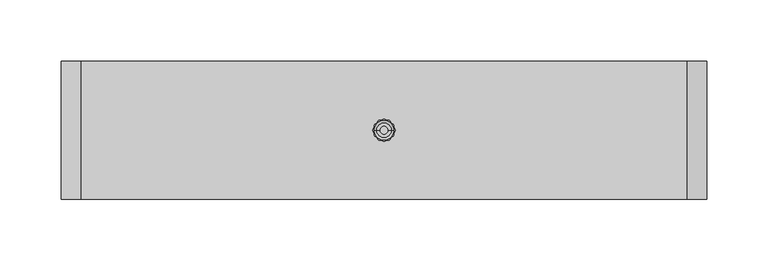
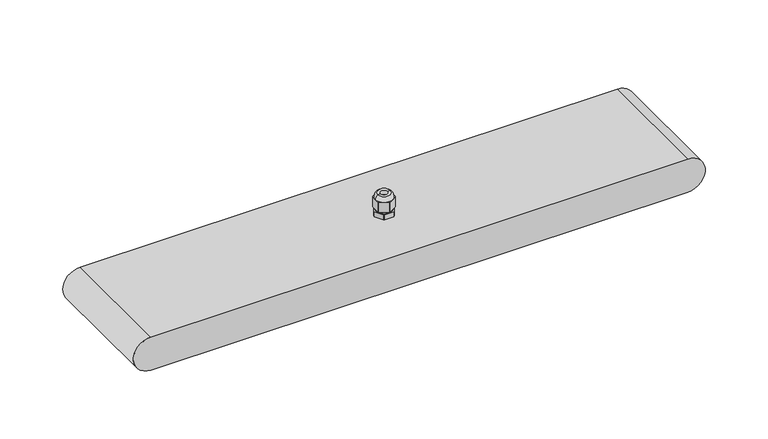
"""IFC4 building model written with IfcOpenShell, lengths in millimetres: light fixture geometry, GENILED_Светильник светодиодный_Element Advanced : Element Advanced 0,5x1 20Вт Матовое закаленное стекло."""

import ifcopenshell
import ifcopenshell.guid

model = None  # the IFC model being written
_history = None  # IfcOwnerHistory: only IFC2X3 demands one
_inside = {}  # id of a spatial element -> (the spatial element, [elements in it])
_under = {}  # id of a project, library or spatial element -> (it, [spatial elements below it])
_declared = {}  # id of a project -> (the project, [libraries it declares])
_typed = {}  # id of a type object -> (the type object, [elements of that type])
_made_of = {}  # id of a material, layer set ... -> (it, [elements and type objects made of it])


def new_model(schema):
    """Start an empty IFC model of exactly this schema.

    Asked for "IFC4X3", IfcOpenShell would pick the latest addendum, in which some entities
    have other attributes; the version numbers below select the first issue.
    IFC2X3 requires an IfcOwnerHistory on every rooted entity: one is made here for all.
    """
    global model, _history
    if schema == "IFC4X3":
        model = ifcopenshell.file(schema_version=(4, 3, 0, 0))
    else:
        model = ifcopenshell.file(schema=schema)
    _inside.clear()
    _under.clear()
    _declared.clear()
    _typed.clear()
    _made_of.clear()
    _history = None
    if model.schema == "IFC2X3":
        org = make("IfcOrganization", Name="unknown")
        user = make(
            "IfcPersonAndOrganization",
            ThePerson=make("IfcPerson", FamilyName="unknown"),
            TheOrganization=org,
        )
        app = make(
            "IfcApplication",
            ApplicationDeveloper=org,
            Version="unknown",
            ApplicationFullName="unknown",
            ApplicationIdentifier="unknown",
        )
        _history = make(
            "IfcOwnerHistory",
            OwningUser=user,
            OwningApplication=app,
            ChangeAction="ADDED",
            CreationDate=0,
        )
    return model


def make(cls, **values):
    """One entity of the class cls with the attributes given. An attribute that is None is left unset."""
    return model.create_entity(
        cls, **{name: value for name, value in values.items() if value is not None}
    )


def rooted(cls, **values):
    """An entity with a GlobalId (a new one), such as an element, a storey or a relation."""
    return make(cls, GlobalId=ifcopenshell.guid.new(), OwnerHistory=_history, **values)


def si_unit(unit_type, name, prefix=None):
    """IfcSIUnit, for example si_unit("LENGTHUNIT", "METRE", prefix="MILLI")."""
    return make("IfcSIUnit", UnitType=unit_type, Prefix=prefix, Name=name)


def assignment(units):
    """IfcUnitAssignment: the units of a project."""
    return None if units is None else make("IfcUnitAssignment", Units=units)


def point(xyz):
    """IfcCartesianPoint."""
    return None if xyz is None else make("IfcCartesianPoint", Coordinates=xyz)


def direction(xyz):
    """IfcDirection."""
    return None if xyz is None else make("IfcDirection", DirectionRatios=xyz)


def frame(location, z_axis=None, x_axis=None):
    """IfcAxis2Placement3D, a coordinate frame: its origin and axes. An axis left out is left unset."""
    return make(
        "IfcAxis2Placement3D",
        Location=point(location),
        Axis=direction(z_axis),
        RefDirection=direction(x_axis),
    )


def origin():
    """The frame at (0, 0, 0) with its axes left unset."""
    return frame((0.0, 0.0, 0.0))


def origin_with_axes():
    """The frame at (0, 0, 0) with the z axis (0, 0, 1) and the x axis (1, 0, 0) written out."""
    return frame((0.0, 0.0, 0.0), z_axis=(0.0, 0.0, 1.0), x_axis=(1.0, 0.0, 0.0))


def place(relative_to, where):
    """IfcLocalPlacement: puts the frame where relative to a parent placement (None: the world)."""
    return make(
        "IfcLocalPlacement", PlacementRelTo=relative_to, RelativePlacement=where
    )


def context(
    kind, dimensions, precision=None, world=None, true_north=None, identifier=None
):
    """IfcGeometricRepresentationContext, for example the 3D "Model" context."""
    return make(
        "IfcGeometricRepresentationContext",
        ContextIdentifier=identifier,
        ContextType=kind,
        CoordinateSpaceDimension=dimensions,
        Precision=precision,
        WorldCoordinateSystem=world,
        TrueNorth=true_north,
    )


def project(units=None, contexts=None):
    """IfcProject with its units and contexts."""
    return rooted(
        "IfcProject",
        Name="project",
        RepresentationContexts=contexts,
        UnitsInContext=assignment(units),
    )


def spatial(cls, under=None, at=None, **own):
    """A site, building, storey or space (cls), placed at a placement, below another one or the project."""
    s = rooted(cls, ObjectPlacement=at, **own)
    if under is not None:
        _under.setdefault(under.id(), (under, []))[1].append(s)
    return s


def polyline(points):
    """IfcPolyline through the points."""
    return make("IfcPolyline", Points=[point(p) for p in points])


def circle_curve(where, radius):
    """IfcCircle in the frame where."""
    return make("IfcCircle", Position=where, Radius=radius)


def ellipse_curve(where, semi_axis1, semi_axis2):
    """IfcEllipse in the frame where."""
    return make(
        "IfcEllipse", Position=where, SemiAxis1=semi_axis1, SemiAxis2=semi_axis2
    )


def trimmed(basis, trim1, trim2, sense, master):
    """IfcTrimmedCurve: the piece of a basis curve between two trims."""
    return make(
        "IfcTrimmedCurve",
        BasisCurve=basis,
        Trim1=trim1,
        Trim2=trim2,
        SenseAgreement=sense,
        MasterRepresentation=master,
    )


def outline(outer, holes=None, kind="AREA"):
    """IfcArbitraryClosedProfileDef: a profile drawn as a closed curve; with holes, ...WithVoids."""
    if holes is None:
        return make("IfcArbitraryClosedProfileDef", ProfileType=kind, OuterCurve=outer)
    return make(
        "IfcArbitraryProfileDefWithVoids",
        ProfileType=kind,
        OuterCurve=outer,
        InnerCurves=holes,
    )


def extrude(swept, where, along, depth):
    """IfcExtrudedAreaSolid: the profile swept, set in the frame where, extruded along a direction by depth."""
    return make(
        "IfcExtrudedAreaSolid",
        SweptArea=swept,
        Position=where,
        ExtrudedDirection=direction(along),
        Depth=depth,
    )


def shape(context_of_items, identifier, shape_type, items):
    """IfcShapeRepresentation: the items that make up one representation, for example the "Body"."""
    return make(
        "IfcShapeRepresentation",
        ContextOfItems=context_of_items,
        RepresentationIdentifier=identifier,
        RepresentationType=shape_type,
        Items=items,
    )


def source(mapping_origin, context_of_items, identifier, shape_type, items):
    """IfcRepresentationMap: a shape defined once, which mapped items show again and again."""
    return make(
        "IfcRepresentationMap",
        MappingOrigin=mapping_origin,
        MappedRepresentation=shape(context_of_items, identifier, shape_type, items),
    )


def transform(
    local_origin,
    x_axis=None,
    y_axis=None,
    z_axis=None,
    scale=None,
    scale2=None,
    scale3=None,
    uniform=True,
):
    """IfcCartesianTransformationOperator3D, or its non-uniform kind. x_axis, y_axis, z_axis: its Axis1, 2, 3."""
    if uniform:
        return make(
            "IfcCartesianTransformationOperator3D",
            Axis1=direction(x_axis),
            Axis2=direction(y_axis),
            LocalOrigin=point(local_origin),
            Scale=scale,
            Axis3=direction(z_axis),
        )
    return make(
        "IfcCartesianTransformationOperator3DnonUniform",
        Axis1=direction(x_axis),
        Axis2=direction(y_axis),
        LocalOrigin=point(local_origin),
        Scale=scale,
        Axis3=direction(z_axis),
        Scale2=scale2,
        Scale3=scale3,
    )


def mapped(mapping_source, mapping_target):
    """IfcMappedItem: shows the shape of a source again, moved by a transform."""
    return make(
        "IfcMappedItem", MappingSource=mapping_source, MappingTarget=mapping_target
    )


def made_of(thing, what):
    """Note that an element or type object is made of a material, layer set ...; save() writes the relation."""
    if what is not None:
        _made_of.setdefault(what.id(), (what, []))[1].append(thing)
    return thing


def element(
    cls,
    number,
    at=None,
    inside=None,
    cuts=None,
    type_object=None,
    material=None,
    context=None,
    identifier="Body",
    shape_type=None,
    held_by="IfcProductDefinitionShape",
    body=None,
    shapes=None,
    **own,
):
    """One element of the class cls, such as IfcWall. Its Tag is "e" and its number.

    at: its placement. inside: the storey or other place that contains it. cuts: it is an
    opening in that element (IfcRelVoidsElement). A single representation is given by context,
    identifier, shape_type and body (its items); several are given by shapes. held_by: the class
    of the entity that holds the representations. save() writes the other relations.
    """
    e = rooted(cls, Tag="e%d" % number, ObjectPlacement=at, **own)
    if body is not None:
        shapes = [shape(context, identifier, shape_type, body)]
    if shapes is not None:
        e.Representation = make(held_by, Representations=shapes)
    if inside is not None:
        _inside.setdefault(inside.id(), (inside, []))[1].append(e)
    if cuts is not None:
        rooted(
            "IfcRelVoidsElement", RelatingBuildingElement=cuts, RelatedOpeningElement=e
        )
    if type_object is not None:
        _typed.setdefault(type_object.id(), (type_object, []))[1].append(e)
    return made_of(e, material)


def aggregate(whole, parts):
    """IfcRelAggregates: a whole, such as a stair, and the parts it consists of."""
    return rooted("IfcRelAggregates", RelatingObject=whole, RelatedObjects=parts)


def save(model, path):
    """Write the relations noted so far, then the file.

    IfcRelAggregates (storeys below a building ...), IfcRelContainedInSpatialStructure (elements
    in a storey), IfcRelDefinesByType, IfcRelAssociatesMaterial and IfcRelDeclares: one each for
    every whole, place, type object, material and project.
    """
    for whole, parts in _under.values():
        aggregate(whole, parts)
    for where, things in _inside.values():
        rooted(
            "IfcRelContainedInSpatialStructure",
            RelatedElements=things,
            RelatingStructure=where,
        )
    for kind, things in _typed.values():
        rooted("IfcRelDefinesByType", RelatedObjects=things, RelatingType=kind)
    for what, things in _made_of.values():
        rooted("IfcRelAssociatesMaterial", RelatedObjects=things, RelatingMaterial=what)
    for by, libraries in _declared.values():
        rooted("IfcRelDeclares", RelatingContext=by, RelatedDefinitions=libraries)
    model.write(path)


def plane_surface(at):
    """IfcPlane: the flat surface through the origin of the frame at, square to its z axis."""
    return make("IfcPlane", Position=at)


def cylinder_surface(at, radius):
    """IfcCylindricalSurface: all points at the distance radius from the z axis of the frame at."""
    return make("IfcCylindricalSurface", Position=at, Radius=radius)


def revolved_surface(curve, axis_point, axis_direction):
    """IfcSurfaceOfRevolution: the curve turned about the line through axis_point along axis_direction."""
    return make(
        "IfcSurfaceOfRevolution",
        SweptCurve=make("IfcArbitraryOpenProfileDef", ProfileType="CURVE", Curve=curve),
        AxisPosition=make("IfcAxis1Placement", Location=point(axis_point), Axis=direction(axis_direction)),
    )


def advanced_brep(points, edges, surfaces, faces):
    """IfcAdvancedBrep: a solid bounded by faces that lie on surfaces and meet in shared edges.

    An edge is (start, end): straight between two places in points (the first is 0);
    or (start, end, curve); or (start, end, curve, False) where it runs against its curve.
    A face is (place in surfaces, loops), or (place, loops, False) where it looks against
    its surface's normal. A loop lists edges by number (the first is 1), with a minus sign
    where the edge is run from its end to its start. The first loop is the outer one.
    """
    corners = [point(p) for p in points]
    vertices = [make("IfcVertexPoint", VertexGeometry=c) for c in corners]
    made = []
    for start, end, *more in edges:
        made.append(
            make(
                "IfcEdgeCurve",
                EdgeStart=vertices[start],
                EdgeEnd=vertices[end],
                EdgeGeometry=more[0] if more else make("IfcPolyline", Points=[corners[start], corners[end]]),
                SameSense=more[1] if len(more) > 1 else True,
            )
        )
    hull = []
    for where, loops, *sense in faces:
        bounds = []
        for j, loop in enumerate(loops):
            ring = [make("IfcOrientedEdge", EdgeElement=made[abs(k) - 1], Orientation=k > 0) for k in loop]
            bounds.append(
                make(
                    "IfcFaceOuterBound" if j == 0 else "IfcFaceBound",
                    Bound=make("IfcEdgeLoop", EdgeList=ring),
                    Orientation=True,
                )
            )
        hull.append(make("IfcAdvancedFace", Bounds=bounds, FaceSurface=surfaces[where], SameSense=sense[0] if sense else True))
    return make("IfcAdvancedBrep", Outer=make("IfcClosedShell", CfsFaces=hull))


def light_fixture_a868d494(model_context):
    return source(origin(), model_context, "Body", "SolidModel", [
        advanced_brep(
        [(5.85, 0.0, 52.0120269), (-5.85, 0.0, 52.0120269), (-3.5, 0.0, 52.0120269), (3.5, 0.0, 52.0120269), (8.0, 0.0, 48.0120269), (4.0, 6.9282032, 48.0120269), (-4.0, 6.9282032, 48.0120269), (-8.0, 0.0, 48.0120269), (-4.0, -6.9282032, 48.0120269), (4.0, -6.9282032, 48.0120269), (-3.5, 0.0, 48.0120269), (3.5, 0.0, 48.0120269), (8.0, 4.1231056, 48.0120269), (7.5707142, 4.8666504, 48.0120269), (0.4292858, 8.989756, 48.0120269), (-0.4292858, 8.989756, 48.0120269), (-7.5707142, 4.8666504, 48.0120269), (-8.0, 4.1231056, 48.0120269), (-8.0, -4.1231056, 48.0120269), (-7.5707142, -4.8666504, 48.0120269), (-0.4292858, -8.989756, 48.0120269), (0.4292858, -8.989756, 48.0120269), (7.5707142, -4.8666504, 48.0120269), (8.0, -4.1231056, 48.0120269), (0.4292858, 8.989756, 38.6), (7.5707142, 4.8666504, 38.6), (8.0, 4.1231056, 38.6), (8.0, -4.1231056, 38.6), (7.5707142, -4.8666504, 38.6), (0.4292858, -8.989756, 38.6), (-0.4292858, -8.989756, 38.6), (-7.5707142, -4.8666504, 38.6), (-8.0, -4.1231056, 38.6), (-8.0, 4.1231056, 38.6), (-7.5707142, 4.8666504, 38.6), (-0.4292858, 8.989756, 38.6), (-7.25, 0.0, 38.6), (7.25, 0.0, 38.6), (-7.25, 0.0, 36.6), (7.25, 0.0, 36.6), (-8.989756, -0.4292858, 36.6), (-4.8666504, -7.5707142, 36.6), (-4.1231056, -8.0, 36.6), (4.1231056, -8.0, 36.6), (4.8666504, -7.5707142, 36.6), (8.989756, -0.4292858, 36.6), (9.0, 0.0, 36.6), (8.989756, 0.4292858, 36.6), (4.8666504, 7.5707142, 36.6), (4.1231056, 8.0, 36.6), (-4.1231056, 8.0, 36.6), (-4.8666504, 7.5707142, 36.6), (-8.989756, 0.4292858, 36.6), (-9.0, 0.0, 36.6), (-8.989756, 0.4292858, 32.0), (-4.8666504, 7.5707142, 32.0), (-4.1231056, 8.0, 32.0), (4.1231056, 8.0, 32.0), (4.8666504, 7.5707142, 32.0), (8.989756, 0.4292858, 32.0), (9.0, 0.0, 32.0), (8.989756, -0.4292858, 32.0), (4.8666504, -7.5707142, 32.0), (4.1231056, -8.0, 32.0), (-4.1231056, -8.0, 32.0), (-4.8666504, -7.5707142, 32.0), (-8.989756, -0.4292858, 32.0), (-9.0, 0.0, 32.0)],
        [
            (0, 1, circle_curve(frame((0.0, 0.0, 52.0120269), z_axis=(0.0, 0.0, 1.0), x_axis=(-1.0, 0.0, 0.0)), 5.85)),
            (1, 2),
            (2, 3, circle_curve(frame((0.0, 0.0, 52.0120269), z_axis=(0.0, 0.0, -1.0), x_axis=(-1.0, 0.0, 0.0)), 3.5)),
            (3, 0),
            (1, 0, circle_curve(frame((0.0, 0.0, 52.0120269), z_axis=(0.0, 0.0, 1.0), x_axis=(-1.0, 0.0, 0.0)), 5.85)),
            (3, 2, circle_curve(frame((0.0, 0.0, 52.0120269), z_axis=(0.0, 0.0, -1.0), x_axis=(-1.0, 0.0, 0.0)), 3.5)),
            (0, 4, circle_curve(frame((2.4876149, 0.0, 47.6269324), z_axis=(0.0, 1.0, 0.0), x_axis=(-1.0, 0.0, 0.0)), 5.5258201)),
            (4, 5, circle_curve(frame((0.0, 0.0, 48.0120269), z_axis=(0.0, 0.0, 1.0), x_axis=(-1.0, 0.0, 0.0)), 8.0)),
            (5, 6, circle_curve(frame((0.0, 0.0, 48.0120269), z_axis=(0.0, 0.0, 1.0), x_axis=(-1.0, 0.0, 0.0)), 8.0)),
            (6, 7, circle_curve(frame((0.0, 0.0, 48.0120269), z_axis=(0.0, 0.0, 1.0), x_axis=(-1.0, 0.0, 0.0)), 8.0)),
            (7, 1, circle_curve(frame((-2.4876149, 0.0, 47.6269324), z_axis=(0.0, 1.0, 0.0), x_axis=(1.0, 0.0, 0.0)), 5.5258201)),
            (7, 8, circle_curve(frame((0.0, 0.0, 48.0120269), z_axis=(0.0, 0.0, 1.0), x_axis=(-1.0, 0.0, 0.0)), 8.0)),
            (8, 9, circle_curve(frame((0.0, 0.0, 48.0120269), z_axis=(0.0, 0.0, 1.0), x_axis=(-1.0, 0.0, 0.0)), 8.0)),
            (9, 4, circle_curve(frame((0.0, 0.0, 48.0120269), z_axis=(0.0, 0.0, 1.0), x_axis=(-1.0, 0.0, 0.0)), 8.0)),
            (2, 10),
            (10, 11, circle_curve(frame((0.0, 0.0, 48.0120269), z_axis=(0.0, 0.0, -1.0), x_axis=(-1.0, 0.0, 0.0)), 3.5)),
            (11, 3),
            (11, 10, circle_curve(frame((0.0, 0.0, 48.0120269), z_axis=(0.0, 0.0, -1.0), x_axis=(-1.0, 0.0, 0.0)), 3.5)),
            (4, 12),
            (12, 13, circle_curve(frame((0.0, 0.0, 48.0120269), z_axis=(0.0, 0.0, 1.0), x_axis=(1.0, 0.0, 0.0)), 9.0)),
            (13, 5),
            (5, 14),
            (14, 15, circle_curve(frame((0.0, 0.0, 48.0120269), z_axis=(0.0, 0.0, 1.0), x_axis=(1.0, 0.0, 0.0)), 9.0)),
            (15, 6),
            (6, 16),
            (16, 17, circle_curve(frame((0.0, 0.0, 48.0120269), z_axis=(0.0, 0.0, 1.0), x_axis=(1.0, 0.0, 0.0)), 9.0)),
            (17, 7),
            (7, 18),
            (18, 19, circle_curve(frame((0.0, 0.0, 48.0120269), z_axis=(0.0, 0.0, 1.0), x_axis=(1.0, 0.0, 0.0)), 9.0)),
            (19, 8),
            (8, 20),
            (20, 21, circle_curve(frame((0.0, 0.0, 48.0120269), z_axis=(0.0, 0.0, 1.0), x_axis=(1.0, 0.0, 0.0)), 9.0)),
            (21, 9),
            (9, 22),
            (22, 23, circle_curve(frame((0.0, 0.0, 48.0120269), z_axis=(0.0, 0.0, 1.0), x_axis=(1.0, 0.0, 0.0)), 9.0)),
            (23, 4),
            (24, 25),
            (25, 26, circle_curve(frame((0.0, 0.0, 38.6), z_axis=(0.0, 0.0, -1.0), x_axis=(1.0, 0.0, 0.0)), 9.0)),
            (26, 27),
            (27, 28, circle_curve(frame((0.0, 0.0, 38.6), z_axis=(0.0, 0.0, -1.0), x_axis=(1.0, 0.0, 0.0)), 9.0)),
            (28, 29),
            (29, 30, circle_curve(frame((0.0, 0.0, 38.6), z_axis=(0.0, 0.0, -1.0), x_axis=(1.0, 0.0, 0.0)), 9.0)),
            (30, 31),
            (31, 32, circle_curve(frame((0.0, 0.0, 38.6), z_axis=(0.0, 0.0, -1.0), x_axis=(1.0, 0.0, 0.0)), 9.0)),
            (32, 33),
            (33, 34, circle_curve(frame((0.0, 0.0, 38.6), z_axis=(0.0, 0.0, -1.0), x_axis=(1.0, 0.0, 0.0)), 9.0)),
            (34, 35),
            (35, 24, circle_curve(frame((0.0, 0.0, 38.6), z_axis=(0.0, 0.0, -1.0), x_axis=(1.0, 0.0, 0.0)), 9.0)),
            (36, 37, circle_curve(frame((0.0, 0.0, 38.6), z_axis=(0.0, 0.0, 1.0), x_axis=(1.0, 0.0, 0.0)), 7.25)),
            (37, 36, circle_curve(frame((0.0, 0.0, 38.6), z_axis=(0.0, 0.0, 1.0), x_axis=(1.0, 0.0, 0.0)), 7.25)),
            (15, 35),
            (34, 16),
            (17, 33),
            (32, 18),
            (19, 31),
            (30, 20),
            (21, 29),
            (28, 22),
            (23, 27),
            (26, 12),
            (13, 25),
            (24, 14),
            (36, 38),
            (38, 39, circle_curve(frame((0.0, 0.0, 36.6), z_axis=(0.0, 0.0, 1.0), x_axis=(1.0, 0.0, 0.0)), 7.25)),
            (39, 37),
            (39, 38, circle_curve(frame((0.0, 0.0, 36.6), z_axis=(0.0, 0.0, 1.0), x_axis=(1.0, 0.0, 0.0)), 7.25)),
            (40, 41),
            (41, 42, circle_curve(frame((0.0, 0.0, 36.6), z_axis=(0.0, 0.0, 1.0), x_axis=(1.0, 0.0, 0.0)), 9.0)),
            (42, 43),
            (43, 44, circle_curve(frame((0.0, 0.0, 36.6), z_axis=(0.0, 0.0, 1.0), x_axis=(1.0, 0.0, 0.0)), 9.0)),
            (44, 45),
            (45, 46, circle_curve(frame((0.0, 0.0, 36.6), z_axis=(0.0, 0.0, 1.0), x_axis=(1.0, 0.0, 0.0)), 9.0)),
            (46, 47, circle_curve(frame((0.0, 0.0, 36.6), z_axis=(0.0, 0.0, 1.0), x_axis=(1.0, 0.0, 0.0)), 9.0)),
            (47, 48),
            (48, 49, circle_curve(frame((0.0, 0.0, 36.6), z_axis=(0.0, 0.0, 1.0), x_axis=(1.0, 0.0, 0.0)), 9.0)),
            (49, 50),
            (50, 51, circle_curve(frame((0.0, 0.0, 36.6), z_axis=(0.0, 0.0, 1.0), x_axis=(1.0, 0.0, 0.0)), 9.0)),
            (51, 52),
            (52, 53, circle_curve(frame((0.0, 0.0, 36.6), z_axis=(0.0, 0.0, 1.0), x_axis=(1.0, 0.0, 0.0)), 9.0)),
            (53, 40, circle_curve(frame((0.0, 0.0, 36.6), z_axis=(0.0, 0.0, 1.0), x_axis=(1.0, 0.0, 0.0)), 9.0)),
            (54, 55),
            (55, 56, circle_curve(frame((0.0, 0.0, 32.0), z_axis=(0.0, 0.0, -1.0), x_axis=(1.0, 0.0, 0.0)), 9.0)),
            (56, 57),
            (57, 58, circle_curve(frame((0.0, 0.0, 32.0), z_axis=(0.0, 0.0, -1.0), x_axis=(1.0, 0.0, 0.0)), 9.0)),
            (58, 59),
            (59, 60, circle_curve(frame((0.0, 0.0, 32.0), z_axis=(0.0, 0.0, -1.0), x_axis=(1.0, 0.0, 0.0)), 9.0)),
            (60, 61, circle_curve(frame((0.0, 0.0, 32.0), z_axis=(0.0, 0.0, -1.0), x_axis=(1.0, 0.0, 0.0)), 9.0)),
            (61, 62),
            (62, 63, circle_curve(frame((0.0, 0.0, 32.0), z_axis=(0.0, 0.0, -1.0), x_axis=(1.0, 0.0, 0.0)), 9.0)),
            (63, 64),
            (64, 65, circle_curve(frame((0.0, 0.0, 32.0), z_axis=(0.0, 0.0, -1.0), x_axis=(1.0, 0.0, 0.0)), 9.0)),
            (65, 66),
            (66, 67, circle_curve(frame((0.0, 0.0, 32.0), z_axis=(0.0, 0.0, -1.0), x_axis=(1.0, 0.0, 0.0)), 9.0)),
            (67, 54, circle_curve(frame((0.0, 0.0, 32.0), z_axis=(0.0, 0.0, -1.0), x_axis=(1.0, 0.0, 0.0)), 9.0)),
            (40, 66),
            (65, 41),
            (42, 64),
            (63, 43),
            (44, 62),
            (61, 45),
            (47, 59),
            (58, 48),
            (49, 57),
            (56, 50),
            (51, 55),
            (54, 52),
            (67, 53),
            (46, 60),
        ],
        [
            plane_surface(frame((0.0, 0.0, 52.0120269), z_axis=(0.0, 0.0, 1.0), x_axis=(-1.0, 0.0, 0.0))),
            revolved_surface(trimmed(ellipse_curve(frame((-2.4876149, 0.0, 47.6269324), z_axis=(0.0, -1.0, 0.0), x_axis=(1.0, 0.0, 0.0)), 5.5258201, 5.5258201), [point((-5.85, 0.0, 52.0120269))], [point((-8.0, 0.0, 48.0120269))], True, "CARTESIAN"), (0.0, 0.0, 48.0120269), (0.0, 0.0, -1.0)),
            revolved_surface(polyline([(-3.5, 0.0, 48.0120269), (-3.5, 0.0, 52.0120269)]), (0.0, 0.0, 48.0120269), (0.0, 0.0, -1.0)),
            plane_surface(frame((0.0, 9.2376043, 48.0120269), z_axis=(0.0, 0.0, 1.0000000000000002), x_axis=(-0.8660254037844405, -0.49999999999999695, 0.0))),
            plane_surface(frame((0.0, 9.2376043, 38.6), z_axis=(0.0, 0.0, -1.0000000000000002), x_axis=(0.8660254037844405, 0.49999999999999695, 0.0))),
            plane_surface(frame((0.0, 9.2376043, 48.0120269), z_axis=(-0.49999999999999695, 0.8660254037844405, 0.0), x_axis=(0.0, 0.0, -1.0))),
            plane_surface(frame((-8.0, 4.6188022, 48.0120269), z_axis=(-1.0, 0.0, 0.0), x_axis=(0.0, 0.0, -1.0))),
            plane_surface(frame((-8.0, -4.6188022, 48.0120269), z_axis=(-0.5000000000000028, -0.8660254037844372, 0.0), x_axis=(0.0, 0.0, -1.0))),
            plane_surface(frame((0.0, -9.2376043, 48.0120269), z_axis=(0.49999999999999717, -0.8660254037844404, 0.0), x_axis=(0.0, 0.0, -1.0))),
            plane_surface(frame((8.0, -4.6188022, 48.0120269), z_axis=(1.0, 0.0, 0.0), x_axis=(0.0, 0.0, -1.0))),
            plane_surface(frame((8.0, 4.6188022, 48.0120269), z_axis=(0.5000000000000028, 0.8660254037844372, 0.0), x_axis=(0.0, 0.0, -1.0))),
            cylinder_surface(frame((0.0, 0.0, 36.6), z_axis=(0.0, 0.0, 1.0), x_axis=(1.0, 0.0, 0.0)), 7.25),
            plane_surface(frame((-9.2376043, 0.0, 36.6), z_axis=(0.0, 0.0, 1.0), x_axis=(0.5000000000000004, -0.8660254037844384, 0.0))),
            plane_surface(frame((-9.2376043, 0.0, 32.0), z_axis=(0.0, 0.0, -1.0), x_axis=(-0.5000000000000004, 0.8660254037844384, 0.0))),
            plane_surface(frame((-9.2376043, 0.0, 36.6), z_axis=(-0.8660254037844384, -0.5000000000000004, 0.0), x_axis=(0.0, 0.0, -1.0))),
            plane_surface(frame((-4.6188022, -8.0, 36.6), z_axis=(0.0, -1.0, 0.0), x_axis=(0.0, 0.0, -1.0))),
            plane_surface(frame((4.6188022, -8.0, 36.6), z_axis=(0.866025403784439, -0.49999999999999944, 0.0), x_axis=(0.0, 0.0, -1.0))),
            plane_surface(frame((9.2376043, 0.0, 36.6), z_axis=(0.8660254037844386, 0.5000000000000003, 0.0), x_axis=(0.0, 0.0, -1.0))),
            plane_surface(frame((4.6188022, 8.0, 36.6), z_axis=(0.0, 1.0, 0.0), x_axis=(0.0, 0.0, -1.0))),
            plane_surface(frame((-4.6188022, 8.0, 36.6), z_axis=(-0.8660254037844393, 0.49999999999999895, 0.0), x_axis=(0.0, 0.0, -1.0))),
            cylinder_surface(frame((0.0, 0.0, 32.0), z_axis=(0.0, 0.0, -1.0), x_axis=(1.0, 0.0, 0.0)), 9.0),
        ],
        [
            (0, [[1, 2, 3, 4]]),
            (0, [[-2, 5, -4, 6]]),
            (1, [[-1, 7, 8, 9, 10, 11]]),
            (1, [[-5, -11, 12, 13, 14, -7]]),
            (2, [[-3, 15, 16, 17]]),
            (2, [[-6, -17, 18, -15]]),
            (3, [[-8, 19, 20, 21]]),
            (3, [[-9, 22, 23, 24]]),
            (3, [[-10, 25, 26, 27]]),
            (3, [[-12, 28, 29, 30]]),
            (3, [[-13, 31, 32, 33]]),
            (3, [[-14, 34, 35, 36]]),
            (3, [[-16, -18]]),
            (4, [[37, 38, 39, 40, 41, 42, 43, 44, 45, 46, 47, 48], [49, 50]]),
            (5, [[-25, -24, 51, -47, 52]]),
            (6, [[-27, 53, -45, 54, -28]]),
            (7, [[-30, 55, -43, 56, -31]]),
            (8, [[-34, -33, 57, -41, 58]]),
            (9, [[-36, 59, -39, 60, -19]]),
            (10, [[-21, 61, -37, 62, -22]]),
            (11, [[63, 64, 65, -49]]),
            (11, [[-63, -50, -65, 66]]),
            (12, [[67, 68, 69, 70, 71, 72, 73, 74, 75, 76, 77, 78, 79, 80], [-64, -66]]),
            (13, [[81, 82, 83, 84, 85, 86, 87, 88, 89, 90, 91, 92, 93, 94]]),
            (14, [[-67, 95, -92, 96]]),
            (15, [[-69, 97, -90, 98]]),
            (16, [[-71, 99, -88, 100]]),
            (17, [[-74, 101, -85, 102]]),
            (18, [[-76, 103, -83, 104]]),
            (19, [[-78, 105, -81, 106]]),
            (20, [[-20, -60, -38, -61]]),
            (20, [[-23, -62, -48, -51]]),
            (20, [[-26, -52, -46, -53]]),
            (20, [[-75, -102, -84, -103]]),
            (20, [[-77, -104, -82, -105]]),
            (20, [[107, -79, -106, -94]]),
            (20, [[108, -86, -101, -73]]),
            (20, [[-29, -54, -44, -55]]),
            (20, [[-32, -56, -42, -57]]),
            (20, [[-35, -58, -40, -59]]),
            (20, [[-68, -96, -91, -97]]),
            (20, [[-70, -98, -89, -99]]),
            (20, [[-107, -93, -95, -80]]),
            (20, [[-108, -72, -100, -87]]),
        ],
    ),
        advanced_brep(
        [(246.5, -56.0, 32.0), (-246.5, -56.0, 32.0), (-246.5, -56.0, 0.0), (246.5, -56.0, 0.0), (246.5, 56.0, 32.0), (246.5, 56.0, 0.0), (-246.5, 56.0, 0.0), (-246.5, 56.0, 32.0), (-246.5, 46.0, 0.0), (-246.5, -46.0, 0.0), (246.5, -46.0, 0.0), (246.5, 46.0, 0.0), (246.5, 46.0, 2.0), (246.5, -46.0, 2.0), (-246.5, -46.0, 2.0), (-246.5, 46.0, 2.0)],
        [
            (0, 1),
            (1, 2, circle_curve(frame((-246.5, -56.0, 16.0), z_axis=(0.0, -1.0, 0.0), x_axis=(1.0, 0.0, 0.0)), 16.0)),
            (2, 3),
            (3, 0, circle_curve(frame((246.5, -56.0, 16.0), z_axis=(0.0, -1.0, 0.0), x_axis=(1.0, 0.0, 0.0)), 16.0)),
            (4, 5, circle_curve(frame((246.5, 56.0, 16.0), z_axis=(0.0, 1.0, 0.0), x_axis=(1.0, 0.0, 0.0)), 16.0)),
            (5, 6),
            (6, 7, circle_curve(frame((-246.5, 56.0, 16.0), z_axis=(0.0, 1.0, 0.0), x_axis=(1.0, 0.0, 0.0)), 16.0)),
            (7, 4),
            (0, 4),
            (7, 1),
            (6, 8),
            (8, 9),
            (9, 2),
            (9, 10),
            (10, 3),
            (5, 11),
            (11, 8),
            (10, 11),
            (12, 13),
            (13, 14),
            (14, 15),
            (15, 12),
            (15, 8),
            (11, 12),
            (14, 9),
            (13, 10),
        ],
        [
            plane_surface(frame((-246.5, -56.0, 32.0), z_axis=(0.0, -1.0, 0.0), x_axis=(-1.0, 0.0, 0.0))),
            plane_surface(frame((-246.5, 56.0, 32.0), z_axis=(0.0, 1.0, 0.0), x_axis=(1.0, 0.0, 0.0))),
            plane_surface(frame((246.5, -56.0, 32.0), z_axis=(0.0, 0.0, 1.0), x_axis=(0.0, 1.0, 0.0))),
            cylinder_surface(frame((-246.5, 56.0, 16.0), z_axis=(0.0, -1.0, 0.0), x_axis=(1.0, 0.0, 0.0)), 16.0),
            plane_surface(frame((-246.5, -56.0, 0.0), z_axis=(0.0, 0.0, -1.0), x_axis=(0.0, 1.0, 0.0))),
            cylinder_surface(frame((246.5, 56.0, 16.0), z_axis=(0.0, -1.0, 0.0), x_axis=(1.0, 0.0, 0.0)), 16.0),
            plane_surface(frame((-246.5, 46.0, 2.0), z_axis=(0.0, 0.0, -1.0), x_axis=(-1.0, 0.0, 0.0))),
            plane_surface(frame((246.5, 46.0, 2.0), z_axis=(0.0, -1.0, 0.0), x_axis=(0.0, 0.0, -1.0))),
            plane_surface(frame((-246.5, 46.0, 2.0), z_axis=(1.0, 0.0, 0.0), x_axis=(0.0, 0.0, -1.0))),
            plane_surface(frame((-246.5, -46.0, 2.0), z_axis=(0.0, 1.0, 0.0), x_axis=(0.0, 0.0, -1.0))),
            plane_surface(frame((246.5, -46.0, 2.0), z_axis=(-1.0, 0.0, 0.0), x_axis=(0.0, 0.0, -1.0))),
        ],
        [
            (0, [[1, 2, 3, 4]]),
            (1, [[5, 6, 7, 8]]),
            (2, [[-1, 9, -8, 10]]),
            (3, [[-2, -10, -7, 11, 12, 13]]),
            (4, [[-3, -13, 14, 15]]),
            (4, [[-6, 16, 17, -11]]),
            (5, [[-4, -15, 18, -16, -5, -9]]),
            (6, [[19, 20, 21, 22]]),
            (7, [[-22, 23, -17, 24]]),
            (8, [[-21, 25, -12, -23]]),
            (9, [[-20, 26, -14, -25]]),
            (10, [[-19, -24, -18, -26]]),
        ],
    ),
        extrude(outline(polyline([(246.5, 46.0), (246.5, -46.0), (-246.5, -46.0), (-246.5, 46.0), (246.5, 46.0)])), origin_with_axes(), (0.0, 0.0, 1.0), 2.0),
    ])


if __name__ == "__main__":
    model = new_model("IFC4")
    model_context = context("Model", 3, world=origin())
    ifc_project = project(units=[si_unit("LENGTHUNIT", "METRE", prefix="MILLI")], contexts=[model_context])
    site = spatial("IfcSite", under=ifc_project)
    building = spatial("IfcBuilding", under=site)
    placement = place(None, origin())
    light_fixture_shape = light_fixture_a868d494(model_context)
    element("IfcLightFixture", 1, ObjectType="GENILED_Светильник светодиодный_Element Advanced : Element Advanced 0,5x1 20Вт Матовое закаленное стекло", at=placement, inside=building, context=model_context, shape_type="MappedRepresentation", body=[
        mapped(light_fixture_shape, transform((0.0, 0.0, 0.0), x_axis=(1.0, 0.0, 0.0), y_axis=(0.0, 1.0, 0.0), z_axis=(0.0, 0.0, 1.0))),
    ])
    save(model, "model.ifc")
